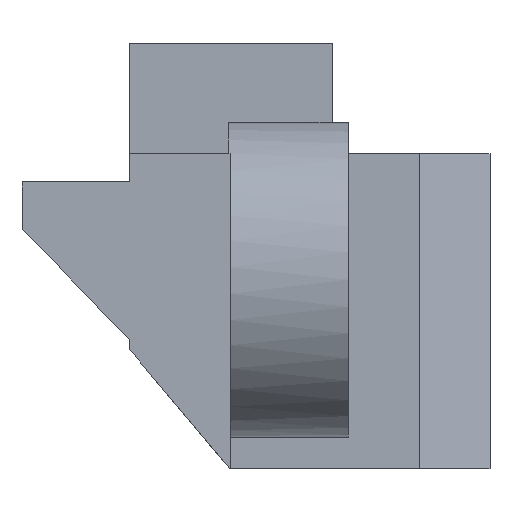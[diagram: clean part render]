
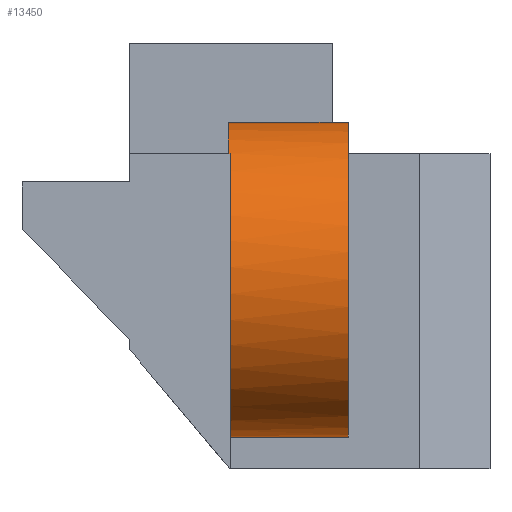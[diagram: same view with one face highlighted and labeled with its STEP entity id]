
A CAD part, front view. The second image highlights one B-rep face of the part: STEP entity #13450.
In plain terms, the highlighted cylindrical face has radius 5 mm (diameter 10 mm), a full revolution.
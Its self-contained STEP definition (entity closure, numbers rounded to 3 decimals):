
#339 = PLANE('',#340);
#340 = AXIS2_PLACEMENT_3D('',#341,#342,#343);
#341 = CARTESIAN_POINT('',(-11.25,-51.5,93.5));
#342 = DIRECTION('',(1.,0.,0.));
#343 = DIRECTION('',(0.,0.,1.));
#357 = VERTEX_POINT('',#358);
#358 = CARTESIAN_POINT('',(-11.25,-47.5,103.5));
#372 = PLANE('',#373);
#373 = AXIS2_PLACEMENT_3D('',#374,#375,#376);
#374 = CARTESIAN_POINT('',(-14.45,-51.5,103.5));
#375 = DIRECTION('',(0.,0.,1.));
#376 = DIRECTION('',(1.,0.,0.));
#548 = VERTEX_POINT('',#549);
#549 = CARTESIAN_POINT('',(-11.25,-41.5,103.5));
#570 = EDGE_CURVE('',#571,#548,#573,.T.);
#571 = VERTEX_POINT('',#572);
#572 = CARTESIAN_POINT('',(-11.25,-39.5,99.5));
#573 = SURFACE_CURVE('',#574,(#579,#586),.PCURVE_S1.);
#574 = CIRCLE('',#575,5.);
#575 = AXIS2_PLACEMENT_3D('',#576,#577,#578);
#576 = CARTESIAN_POINT('',(-11.25,-44.5,99.5));
#577 = DIRECTION('',(1.,0.,-0.));
#578 = DIRECTION('',(0.,1.,0.));
#579 = PCURVE('',#339,#580);
#580 = DEFINITIONAL_REPRESENTATION('',(#581),#585);
#581 = CIRCLE('',#582,5.);
#582 = AXIS2_PLACEMENT_2D('',#583,#584);
#583 = CARTESIAN_POINT('',(6.,-7.));
#584 = DIRECTION('',(0.,-1.));
#585 = ( GEOMETRIC_REPRESENTATION_CONTEXT(2) 
PARAMETRIC_REPRESENTATION_CONTEXT() REPRESENTATION_CONTEXT('2D SPACE',''
  ) );
#586 = PCURVE('',#587,#592);
#587 = CYLINDRICAL_SURFACE('',#588,5.);
#588 = AXIS2_PLACEMENT_3D('',#589,#590,#591);
#589 = CARTESIAN_POINT('',(-7.5,-44.5,99.5));
#590 = DIRECTION('',(1.,-0.,-0.));
#591 = DIRECTION('',(0.,1.,-0.));
#592 = DEFINITIONAL_REPRESENTATION('',(#593),#597);
#593 = LINE('',#594,#595);
#594 = CARTESIAN_POINT('',(-6.283,-3.75));
#595 = VECTOR('',#596,1.);
#596 = DIRECTION('',(1.,-0.));
#597 = ( GEOMETRIC_REPRESENTATION_CONTEXT(2) 
PARAMETRIC_REPRESENTATION_CONTEXT() REPRESENTATION_CONTEXT('2D SPACE',''
  ) );
#599 = EDGE_CURVE('',#357,#571,#600,.T.);
#600 = SURFACE_CURVE('',#601,(#606,#613),.PCURVE_S1.);
#601 = CIRCLE('',#602,5.);
#602 = AXIS2_PLACEMENT_3D('',#603,#604,#605);
#603 = CARTESIAN_POINT('',(-11.25,-44.5,99.5));
#604 = DIRECTION('',(1.,0.,-0.));
#605 = DIRECTION('',(0.,1.,0.));
#606 = PCURVE('',#339,#607);
#607 = DEFINITIONAL_REPRESENTATION('',(#608),#612);
#608 = CIRCLE('',#609,5.);
#609 = AXIS2_PLACEMENT_2D('',#610,#611);
#610 = CARTESIAN_POINT('',(6.,-7.));
#611 = DIRECTION('',(0.,-1.));
#612 = ( GEOMETRIC_REPRESENTATION_CONTEXT(2) 
PARAMETRIC_REPRESENTATION_CONTEXT() REPRESENTATION_CONTEXT('2D SPACE',''
  ) );
#613 = PCURVE('',#587,#614);
#614 = DEFINITIONAL_REPRESENTATION('',(#615),#619);
#615 = LINE('',#616,#617);
#616 = CARTESIAN_POINT('',(-6.283,-3.75));
#617 = VECTOR('',#618,1.);
#618 = DIRECTION('',(1.,-0.));
#619 = ( GEOMETRIC_REPRESENTATION_CONTEXT(2) 
PARAMETRIC_REPRESENTATION_CONTEXT() REPRESENTATION_CONTEXT('2D SPACE',''
  ) );
#13450 = ADVANCED_FACE('',(#13451),#587,.T.);
#13451 = FACE_BOUND('',#13452,.F.);
#13452 = EDGE_LOOP('',(#13453,#13482,#13503,#13504,#13525,#13554,#13573,
    #13574));
#13453 = ORIENTED_EDGE('',*,*,#13454,.F.);
#13454 = EDGE_CURVE('',#13455,#13455,#13457,.T.);
#13455 = VERTEX_POINT('',#13456);
#13456 = CARTESIAN_POINT('',(-7.5,-39.5,99.5));
#13457 = SURFACE_CURVE('',#13458,(#13463,#13470),.PCURVE_S1.);
#13458 = CIRCLE('',#13459,5.);
#13459 = AXIS2_PLACEMENT_3D('',#13460,#13461,#13462);
#13460 = CARTESIAN_POINT('',(-7.5,-44.5,99.5));
#13461 = DIRECTION('',(-1.,0.,0.));
#13462 = DIRECTION('',(0.,1.,-0.));
#13463 = PCURVE('',#587,#13464);
#13464 = DEFINITIONAL_REPRESENTATION('',(#13465),#13469);
#13465 = LINE('',#13466,#13467);
#13466 = CARTESIAN_POINT('',(-0.,0.));
#13467 = VECTOR('',#13468,1.);
#13468 = DIRECTION('',(-1.,0.));
#13469 = ( GEOMETRIC_REPRESENTATION_CONTEXT(2) 
PARAMETRIC_REPRESENTATION_CONTEXT() REPRESENTATION_CONTEXT('2D SPACE',''
  ) );
#13470 = PCURVE('',#13471,#13476);
#13471 = PLANE('',#13472);
#13472 = AXIS2_PLACEMENT_3D('',#13473,#13474,#13475);
#13473 = CARTESIAN_POINT('',(-7.5,-44.5,99.5));
#13474 = DIRECTION('',(-1.,-0.,-0.));
#13475 = DIRECTION('',(0.,0.,-1.));
#13476 = DEFINITIONAL_REPRESENTATION('',(#13477),#13481);
#13477 = CIRCLE('',#13478,5.);
#13478 = AXIS2_PLACEMENT_2D('',#13479,#13480);
#13479 = CARTESIAN_POINT('',(0.,0.));
#13480 = DIRECTION('',(0.,-1.));
#13481 = ( GEOMETRIC_REPRESENTATION_CONTEXT(2) 
PARAMETRIC_REPRESENTATION_CONTEXT() REPRESENTATION_CONTEXT('2D SPACE',''
  ) );
#13482 = ORIENTED_EDGE('',*,*,#13483,.T.);
#13483 = EDGE_CURVE('',#13455,#571,#13484,.T.);
#13484 = SEAM_CURVE('',#13485,(#13489,#13496),.PCURVE_S1.);
#13485 = LINE('',#13486,#13487);
#13486 = CARTESIAN_POINT('',(-7.5,-39.5,99.5));
#13487 = VECTOR('',#13488,1.);
#13488 = DIRECTION('',(-1.,0.,0.));
#13489 = PCURVE('',#587,#13490);
#13490 = DEFINITIONAL_REPRESENTATION('',(#13491),#13495);
#13491 = LINE('',#13492,#13493);
#13492 = CARTESIAN_POINT('',(-6.283,0.));
#13493 = VECTOR('',#13494,1.);
#13494 = DIRECTION('',(-0.,-1.));
#13495 = ( GEOMETRIC_REPRESENTATION_CONTEXT(2) 
PARAMETRIC_REPRESENTATION_CONTEXT() REPRESENTATION_CONTEXT('2D SPACE',''
  ) );
#13496 = PCURVE('',#587,#13497);
#13497 = DEFINITIONAL_REPRESENTATION('',(#13498),#13502);
#13498 = LINE('',#13499,#13500);
#13499 = CARTESIAN_POINT('',(-0.,0.));
#13500 = VECTOR('',#13501,1.);
#13501 = DIRECTION('',(-0.,-1.));
#13502 = ( GEOMETRIC_REPRESENTATION_CONTEXT(2) 
PARAMETRIC_REPRESENTATION_CONTEXT() REPRESENTATION_CONTEXT('2D SPACE',''
  ) );
#13503 = ORIENTED_EDGE('',*,*,#599,.F.);
#13504 = ORIENTED_EDGE('',*,*,#13505,.F.);
#13505 = EDGE_CURVE('',#13506,#357,#13508,.T.);
#13506 = VERTEX_POINT('',#13507);
#13507 = CARTESIAN_POINT('',(-11.3,-47.5,103.5));
#13508 = SURFACE_CURVE('',#13509,(#13513,#13519),.PCURVE_S1.);
#13509 = LINE('',#13510,#13511);
#13510 = CARTESIAN_POINT('',(-7.5,-47.5,103.5));
#13511 = VECTOR('',#13512,1.);
#13512 = DIRECTION('',(1.,-0.,-0.));
#13513 = PCURVE('',#587,#13514);
#13514 = DEFINITIONAL_REPRESENTATION('',(#13515),#13518);
#13515 = B_SPLINE_CURVE_WITH_KNOTS('',1,(#13516,#13517),.UNSPECIFIED.,
  .F.,.F.,(2,2),(-3.8,0.),
  .PIECEWISE_BEZIER_KNOTS.);
#13516 = CARTESIAN_POINT('',(-4.069,-3.8));
#13517 = CARTESIAN_POINT('',(-4.069,0.));
#13518 = ( GEOMETRIC_REPRESENTATION_CONTEXT(2) 
PARAMETRIC_REPRESENTATION_CONTEXT() REPRESENTATION_CONTEXT('2D SPACE',''
  ) );
#13519 = PCURVE('',#372,#13520);
#13520 = DEFINITIONAL_REPRESENTATION('',(#13521),#13524);
#13521 = B_SPLINE_CURVE_WITH_KNOTS('',1,(#13522,#13523),.UNSPECIFIED.,
  .F.,.F.,(2,2),(-3.8,0.),
  .PIECEWISE_BEZIER_KNOTS.);
#13522 = CARTESIAN_POINT('',(3.15,4.));
#13523 = CARTESIAN_POINT('',(6.95,4.));
#13524 = ( GEOMETRIC_REPRESENTATION_CONTEXT(2) 
PARAMETRIC_REPRESENTATION_CONTEXT() REPRESENTATION_CONTEXT('2D SPACE',''
  ) );
#13525 = ORIENTED_EDGE('',*,*,#13526,.T.);
#13526 = EDGE_CURVE('',#13506,#13527,#13529,.T.);
#13527 = VERTEX_POINT('',#13528);
#13528 = CARTESIAN_POINT('',(-11.3,-41.5,103.5));
#13529 = SURFACE_CURVE('',#13530,(#13535,#13542),.PCURVE_S1.);
#13530 = CIRCLE('',#13531,5.);
#13531 = AXIS2_PLACEMENT_3D('',#13532,#13533,#13534);
#13532 = CARTESIAN_POINT('',(-11.3,-44.5,99.5));
#13533 = DIRECTION('',(-1.,0.,0.));
#13534 = DIRECTION('',(0.,1.,-0.));
#13535 = PCURVE('',#587,#13536);
#13536 = DEFINITIONAL_REPRESENTATION('',(#13537),#13541);
#13537 = LINE('',#13538,#13539);
#13538 = CARTESIAN_POINT('',(-0.,-3.8));
#13539 = VECTOR('',#13540,1.);
#13540 = DIRECTION('',(-1.,0.));
#13541 = ( GEOMETRIC_REPRESENTATION_CONTEXT(2) 
PARAMETRIC_REPRESENTATION_CONTEXT() REPRESENTATION_CONTEXT('2D SPACE',''
  ) );
#13542 = PCURVE('',#13543,#13548);
#13543 = PLANE('',#13544);
#13544 = AXIS2_PLACEMENT_3D('',#13545,#13546,#13547);
#13545 = CARTESIAN_POINT('',(-11.3,-44.5,99.5));
#13546 = DIRECTION('',(-1.,-0.,-0.));
#13547 = DIRECTION('',(0.,0.,-1.));
#13548 = DEFINITIONAL_REPRESENTATION('',(#13549),#13553);
#13549 = CIRCLE('',#13550,5.);
#13550 = AXIS2_PLACEMENT_2D('',#13551,#13552);
#13551 = CARTESIAN_POINT('',(0.,0.));
#13552 = DIRECTION('',(0.,-1.));
#13553 = ( GEOMETRIC_REPRESENTATION_CONTEXT(2) 
PARAMETRIC_REPRESENTATION_CONTEXT() REPRESENTATION_CONTEXT('2D SPACE',''
  ) );
#13554 = ORIENTED_EDGE('',*,*,#13555,.T.);
#13555 = EDGE_CURVE('',#13527,#548,#13556,.T.);
#13556 = SURFACE_CURVE('',#13557,(#13561,#13567),.PCURVE_S1.);
#13557 = LINE('',#13558,#13559);
#13558 = CARTESIAN_POINT('',(-7.5,-41.5,103.5));
#13559 = VECTOR('',#13560,1.);
#13560 = DIRECTION('',(1.,-0.,-0.));
#13561 = PCURVE('',#587,#13562);
#13562 = DEFINITIONAL_REPRESENTATION('',(#13563),#13566);
#13563 = B_SPLINE_CURVE_WITH_KNOTS('',1,(#13564,#13565),.UNSPECIFIED.,
  .F.,.F.,(2,2),(-3.8,0.),
  .PIECEWISE_BEZIER_KNOTS.);
#13564 = CARTESIAN_POINT('',(-5.356,-3.8));
#13565 = CARTESIAN_POINT('',(-5.356,0.));
#13566 = ( GEOMETRIC_REPRESENTATION_CONTEXT(2) 
PARAMETRIC_REPRESENTATION_CONTEXT() REPRESENTATION_CONTEXT('2D SPACE',''
  ) );
#13567 = PCURVE('',#372,#13568);
#13568 = DEFINITIONAL_REPRESENTATION('',(#13569),#13572);
#13569 = B_SPLINE_CURVE_WITH_KNOTS('',1,(#13570,#13571),.UNSPECIFIED.,
  .F.,.F.,(2,2),(-3.8,0.),
  .PIECEWISE_BEZIER_KNOTS.);
#13570 = CARTESIAN_POINT('',(3.15,10.));
#13571 = CARTESIAN_POINT('',(6.95,10.));
#13572 = ( GEOMETRIC_REPRESENTATION_CONTEXT(2) 
PARAMETRIC_REPRESENTATION_CONTEXT() REPRESENTATION_CONTEXT('2D SPACE',''
  ) );
#13573 = ORIENTED_EDGE('',*,*,#570,.F.);
#13574 = ORIENTED_EDGE('',*,*,#13483,.F.);
